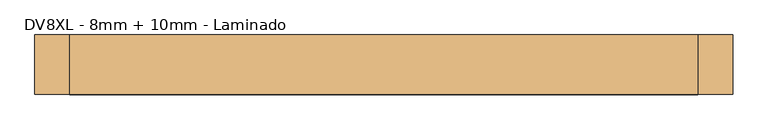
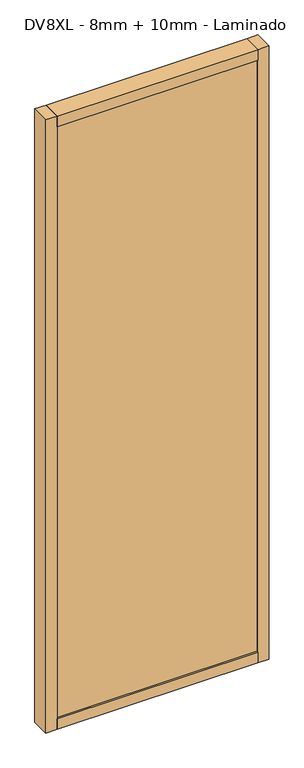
"""IFC4 building model written with IfcOpenShell, lengths in millimetres: door geometry, Mobiliário_Mobiliário de Escritório_Painel Vidro Duplo - DVDT, DVDL e DVXL (Completo)_Marelli : DV8XL - 8mm + 10mm - Laminado."""

from ifc_helpers import new_model, si_unit, frame, origin, origin_with_axes, place, context, project, spatial, polyline, outline, extrude, source, transform, mapped, element, save


def dv8xl_8mm_10mm_laminado_efa7bd3a(model_context):
    return source(origin(), model_context, "Body", "SweptSolid", [
        extrude(outline(polyline([(450.0, 42.5), (450.0, -42.5), (-450.0, -42.5), (-450.0, 42.5), (450.0, 42.5)])), origin_with_axes(), (0.0, 0.0, 1.0), 50.0),
        extrude(outline(polyline([(450.0, 42.5), (450.0, -42.5), (-450.0, -42.5), (-450.0, 42.5), (450.0, 42.5)])), frame((0.0, 0.0, 2850.0), z_axis=(0.0, 0.0, 1.0), x_axis=(1.0, 0.0, 0.0)), (0.0, 0.0, 1.0), 50.0),
        extrude(outline(polyline([(-500.0, -42.5), (-500.0, 42.5), (-450.0, 42.5), (-450.0, -42.5), (-500.0, -42.5)])), origin_with_axes(), (0.0, 0.0, 1.0), 2900.0),
        extrude(outline(polyline([(500.0, -42.5), (450.0, -42.5), (450.0, 42.5), (500.0, 42.5), (500.0, -42.5)])), origin_with_axes(), (0.0, 0.0, 1.0), 2900.0),
        extrude(outline(polyline([(450.0, 33.1), (450.0, 25.1), (-450.0, 25.1), (-450.0, 33.1), (450.0, 33.1)])), frame((0.0, 0.0, 50.0), z_axis=(0.0, 0.0, 1.0), x_axis=(1.0, 0.0, 0.0)), (0.0, 0.0, 1.0), 2800.0),
        extrude(outline(polyline([(450.0, -35.1), (-450.0, -35.1), (-450.0, -25.1), (450.0, -25.1), (450.0, -35.1)])), frame((0.0, 0.0, 50.0), z_axis=(0.0, 0.0, 1.0), x_axis=(1.0, 0.0, 0.0)), (0.0, 0.0, 1.0), 2800.0),
    ])


if __name__ == "__main__":
    model = new_model("IFC4")
    model_context = context("Model", 3, world=origin())
    ifc_project = project(units=[si_unit("LENGTHUNIT", "METRE", prefix="MILLI")], contexts=[model_context])
    site = spatial("IfcSite", under=ifc_project)
    building = spatial("IfcBuilding", under=site)
    placement = place(None, origin())
    dv8xl_8mm_10mm_laminado_shape = dv8xl_8mm_10mm_laminado_efa7bd3a(model_context)
    element("IfcDoor", 1, ObjectType="Mobiliário_Mobiliário de Escritório_Painel Vidro Duplo - DVDT, DVDL e DVXL (Completo)_Marelli : DV8XL - 8mm + 10mm - Laminado", at=placement, inside=building, context=model_context, shape_type="MappedRepresentation", body=[
        mapped(dv8xl_8mm_10mm_laminado_shape, transform((0.0, 0.0, 0.0), x_axis=(1.0, 0.0, 0.0), y_axis=(0.0, 1.0, 0.0), z_axis=(0.0, 0.0, 1.0))),
    ])
    save(model, "model.ifc")
